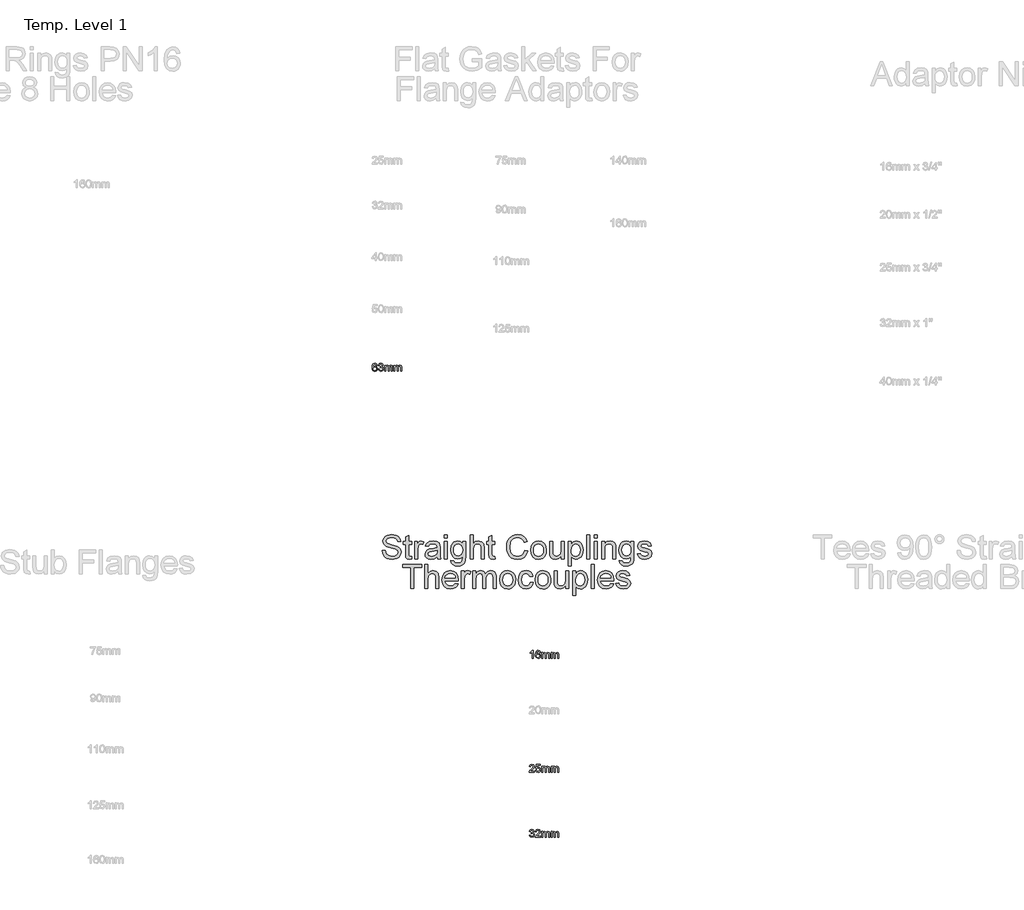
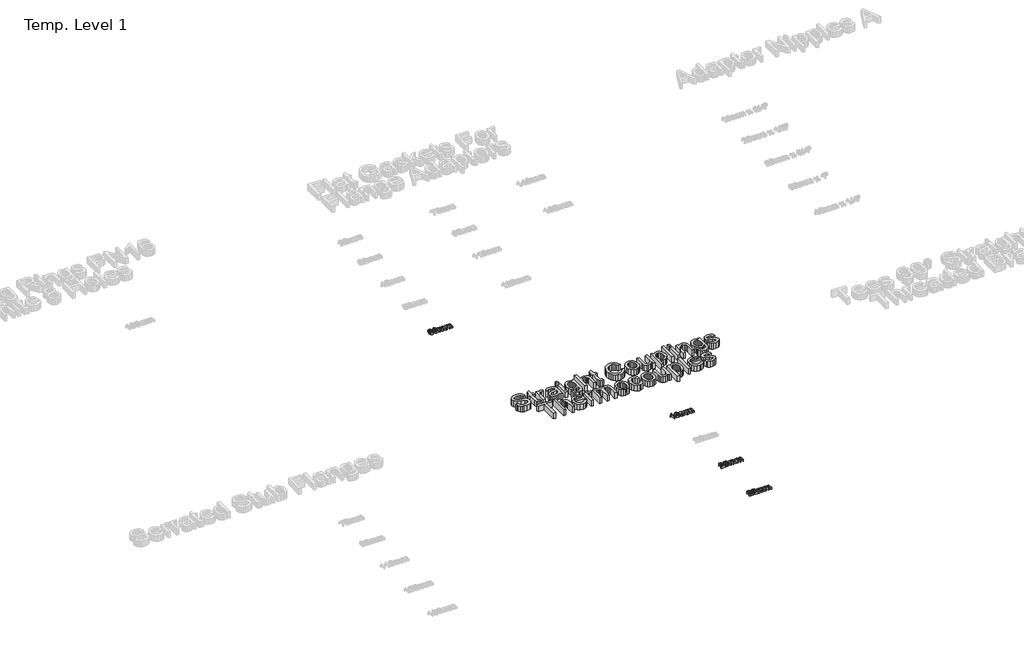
# One storey, part 3 of 62: 5 proxies.
"""IFC4 building model written with IfcOpenShell, lengths in millimetres."""

from ifc_helpers import new_model, si_unit, origin, origin_with_axes, place, context, project, spatial, polyline, outline, extrude, element, save

model = new_model("IFC4")

# Units and contexts
model_context = context("Model", 3, world=origin())
ifc_project = project(units=[si_unit("LENGTHUNIT", "METRE", prefix="MILLI")], contexts=[model_context])

# Site, building, storey
site = spatial("IfcSite", under=ifc_project)
building = spatial("IfcBuilding", under=site)
storey = spatial("IfcBuildingStorey", under=building, Name="Temp. Level 1", Elevation=0.0)

# Proxies
placement = place(None, origin())
element("IfcBuildingElementProxy", 1, Name="150mm Arial", ObjectType="150mm Arial", at=placement, inside=storey, context=model_context, shape_type="SweptSolid", body=[
    extrude(outline(polyline([(11591.8868673, -9928.2754401), (11610.3484058, -9928.2754401), (11616.297925, -9946.7550074), (11630.829175, -9958.4376997), (11652.9685981, -9962.8908247), (11672.2594635, -9959.5194305), (11684.7173962, -9950.2526036), (11688.8099442, -9937.8667862), (11685.7450404, -9926.3463536), (11673.1969635, -9917.9629401), (11646.3159538, -9910.9136612), (11617.3796558, -9901.8090939), (11601.6765308, -9888.0711132), (11596.5022519, -9869.7177478), (11598.102312, -9858.9049473), (11602.9024923, -9848.8223151), (11610.7765909, -9840.276642), (11621.5984058, -9834.0747189), (11648.9661942, -9829.0446709), (11678.172925, -9834.3090939), (11689.3688385, -9840.808493), (11697.6440788, -9849.7778439), (11702.8814587, -9860.6582526), (11704.9637904, -9872.8908247), (11686.5022519, -9872.8908247), (11683.1128288, -9861.8751997), (11676.0455212, -9853.9244786), (11665.0028529, -9849.1107766), (11649.6873481, -9847.5062093), (11634.0112663, -9849.0927478), (11623.2570596, -9853.8523632), (11617.0371077, -9860.8565699), (11614.9637904, -9869.1768824), (11616.4331413, -9876.2712334), (11620.8411942, -9881.9773632), (11650.985425, -9892.2898632), (11683.6536942, -9901.5566901), (11694.1780332, -9908.2544064), (11701.5202808, -9916.5206324), (11707.2714827, -9937.3980362), (11705.6173361, -9948.7787454), (11700.6548962, -9959.4833728), (11692.5869875, -9968.6961132), (11681.6164346, -9975.6011612), (11653.6897519, -9981.3523632), (11635.602312, -9979.8018824), (11620.7149923, -9975.1504401), (11608.8565188, -9967.3800074), (11599.8556173, -9956.4725555), (11594.0773721, -9943.1852959), (11591.8868673, -9928.2754401)])), origin_with_axes(), (0.0, 0.0, 1.0), 50.0),
    extrude(outline(polyline([(11771.8868673, -9963.6480362), (11774.1945596, -9979.5855362), (11760.3844635, -9981.3523632), (11744.9157135, -9978.2874593), (11737.1993673, -9970.2465939), (11734.9637904, -9949.2970747), (11734.9637904, -9889.0446709), (11721.1176365, -9889.0446709), (11721.1176365, -9870.5831324), (11734.9637904, -9870.5831324), (11734.9637904, -9844.2249593), (11753.4253288, -9833.3715939), (11753.4253288, -9870.5831324), (11771.8868673, -9870.5831324), (11771.8868673, -9889.0446709), (11753.4253288, -9889.0446709), (11753.4253288, -9948.7562093), (11754.3988865, -9958.2754401), (11757.5539346, -9961.6468343), (11763.8460019, -9962.8908247), (11771.8868673, -9963.6480362)])), origin_with_axes(), (0.0, 0.0, 1.0), 50.0),
    extrude(outline(polyline([(11790.3484058, -9979.0446709), (11790.3484058, -9870.5831324), (11806.5022519, -9870.5831324), (11806.5022519, -9886.6288055), (11817.9685981, -9871.8451516), (11829.5070596, -9868.2754401), (11848.0407135, -9873.9725555), (11841.8748481, -9890.5230362), (11828.8940788, -9886.7369786), (11818.4553769, -9890.3788055), (11811.8027327, -9900.4749593), (11808.8099442, -9922.0374593), (11808.8099442, -9979.0446709), (11790.3484058, -9979.0446709)])), origin_with_axes(), (0.0, 0.0, 1.0), 50.0),
    extrude(outline(polyline([(11928.8099442, -9965.198517), (11910.9073, -9977.7105362), (11891.1296558, -9981.3523632), (11875.7014707, -9979.1618584), (11864.3207615, -9972.5903439), (11857.3030332, -9962.6113776), (11854.9637904, -9950.198517), (11858.4974442, -9935.5951516), (11867.7823, -9924.9941901), (11880.7089827, -9918.9364978), (11896.6825404, -9916.1600555), (11928.7017712, -9909.8139016), (11928.8099442, -9905.7033247), (11927.5389106, -9897.464142), (11923.7258096, -9892.073517), (11915.1981654, -9888.0711132), (11903.3171558, -9886.7369786), (11884.6392712, -9890.2886612), (11875.7330212, -9902.8908247), (11857.2714827, -9900.5831324), (11865.2582615, -9882.5542862), (11881.3399923, -9871.9893824), (11905.6969635, -9868.2754401), (11928.0707615, -9871.5566901), (11940.7089827, -9879.7958728), (11946.3700404, -9892.3259209), (11947.2714827, -9908.479767), (11947.2714827, -9931.448517), (11948.2089827, -9963.5218343), (11951.8868673, -9979.0446709), (11933.4253288, -9979.0446709), (11928.8099442, -9965.198517)]), holes=[polyline([(11928.8099442, -9928.2754401), (11899.0262904, -9933.9364978), (11883.1428769, -9936.9292862), (11875.9493673, -9941.7970747), (11873.4253288, -9948.9004401), (11878.9241269, -9958.8884209), (11895.0599442, -9962.8908247), (11913.7378288, -9958.4737574), (11925.7810981, -9947.7826516), (11928.7017712, -9933.5038055), (11928.8099442, -9928.2754401)])]), origin_with_axes(), (0.0, 0.0, 1.0), 50.0),
    extrude(outline(polyline([(11972.6560981, -9979.0446709), (11972.6560981, -9870.5831324), (11991.1176365, -9870.5831324), (11991.1176365, -9979.0446709), (11972.6560981, -9979.0446709)])), origin_with_axes(), (0.0, 0.0, 1.0), 50.0),
    extrude(outline(polyline([(11972.6560981, -9849.8139016), (11972.6560981, -9831.3523632), (11991.1176365, -9831.3523632), (11991.1176365, -9849.8139016), (11972.6560981, -9849.8139016)])), origin_with_axes(), (0.0, 0.0, 1.0), 50.0),
    extrude(outline(polyline([(12014.1945596, -9988.2754401), (12032.6560981, -9990.5831324), (12038.641675, -10000.3187093), (12056.5623481, -10004.4292862), (12075.4565788, -9999.7778439), (12084.4710019, -9986.7249593), (12085.7330212, -9965.198517), (12072.7342231, -9975.5831324), (12056.8868673, -9979.0446709), (12037.852913, -9975.0152237), (12023.6597038, -9962.9268824), (12014.8300764, -9945.2045266), (12011.8868673, -9924.2730362), (12017.1693192, -9895.6612574), (12023.6326606, -9884.0461733), (12032.4577808, -9875.4148632), (12043.3426966, -9870.0602959), (12055.985425, -9868.2754401), (12072.454776, -9872.3139016), (12085.7330212, -9884.4292862), (12085.7330212, -9870.5831324), (12104.1945596, -9870.5831324), (12104.1945596, -9964.2249593), (12102.9325404, -9985.8460531), (12099.1464827, -10000.0843343), (12092.6245476, -10009.5269425), (12083.1548962, -10016.761017), (12070.9448601, -10021.3583728), (12056.2017712, -10022.8908247), (12039.024788, -10020.7318704), (12025.4986462, -10014.2550074), (12016.8222639, -10003.4422069), (12014.1945596, -9988.2754401)]), holes=[polyline([(12030.3484058, -9923.011017), (12032.3180572, -9939.9446108), (12038.2270115, -9951.5867382), (12047.1107255, -9958.3340338), (12058.0046558, -9960.5831324), (12068.8174563, -9958.3475555), (12077.7462423, -9951.6408247), (12083.7363264, -9940.1474353), (12085.7330212, -9923.5518824), (12083.6777327, -9907.5467742), (12077.5118673, -9896.0218343), (12068.4523721, -9889.0581925), (12057.7161942, -9886.7369786), (12047.1738264, -9889.0221348), (12038.3351846, -9895.8776036), (12032.3451005, -9907.2312694), (12030.3484058, -9923.011017)])]), origin_with_axes(), (0.0, 0.0, 1.0), 50.0),
    extrude(outline(polyline([(12131.8868673, -9979.0446709), (12131.8868673, -9831.3523632), (12150.3484058, -9831.3523632), (12150.3484058, -9885.6552478), (12164.7444394, -9872.620392), (12182.4758096, -9868.2754401), (12203.2089827, -9873.0170266), (12215.7931173, -9886.1239978), (12219.579175, -9910.3908247), (12219.579175, -9979.0446709), (12201.1176365, -9979.0446709), (12201.1176365, -9912.3018824), (12199.6482856, -9900.745392), (12195.2402327, -9892.8307286), (12188.1368673, -9888.2604161), (12178.5815788, -9886.7369786), (12163.4553769, -9890.8475555), (12153.3592231, -9901.9893824), (12150.3484058, -9921.4244786), (12150.3484058, -9979.0446709), (12131.8868673, -9979.0446709)])), origin_with_axes(), (0.0, 0.0, 1.0), 50.0),
    extrude(outline(polyline([(12284.1945596, -9963.6480362), (12286.5022519, -9979.5855362), (12272.6921558, -9981.3523632), (12257.2234058, -9978.2874593), (12249.5070596, -9970.2465939), (12247.2714827, -9949.2970747), (12247.2714827, -9889.0446709), (12233.4253288, -9889.0446709), (12233.4253288, -9870.5831324), (12247.2714827, -9870.5831324), (12247.2714827, -9844.2249593), (12265.7330212, -9833.3715939), (12265.7330212, -9870.5831324), (12284.1945596, -9870.5831324), (12284.1945596, -9889.0446709), (12265.7330212, -9889.0446709), (12265.7330212, -9948.7562093), (12266.7065788, -9958.2754401), (12269.8616269, -9961.6468343), (12276.1536942, -9962.8908247), (12284.1945596, -9963.6480362)])), origin_with_axes(), (0.0, 0.0, 1.0), 50.0),
    extrude(outline(polyline([(12466.5022519, -9926.5446709), (12484.9637904, -9931.3042862), (12476.4451606, -9952.8172069), (12463.0767712, -9968.5338536), (12445.516675, -9978.1477358), (12424.422925, -9981.3523632), (12403.009163, -9978.9274834), (12386.0034538, -9971.6528439), (12372.9685981, -9959.7808487), (12363.4673962, -9943.5639016), (12357.6666149, -9924.4983968), (12355.7330212, -9904.0807286), (12357.9190188, -9882.5452718), (12364.4770115, -9863.948517), (12375.0644514, -9848.8809088), (12389.3387904, -9837.932892), (12406.2678769, -9831.2667262), (12424.8195596, -9829.0446709), (12445.0614466, -9831.9202718), (12461.7967231, -9840.5470747), (12474.5025524, -9854.3932286), (12482.6560981, -9872.9268824), (12464.1945596, -9877.3259209), (12457.7943192, -9863.86288), (12449.0503288, -9854.6276036), (12437.8544154, -9849.2865579), (12424.0984058, -9847.5062093), (12408.2420356, -9849.480368), (12395.2161942, -9855.4028439), (12385.3318793, -9864.651642), (12378.9000885, -9876.604767), (12374.1945596, -9904.0446709), (12379.7654731, -9935.8475555), (12386.8868673, -9947.7240579), (12397.1092231, -9956.1660651), (12409.3643313, -9961.2096348), (12422.5839827, -9962.8908247), (12437.9941389, -9960.6011612), (12450.8351846, -9953.7321709), (12460.5301966, -9942.3559689), (12466.5022519, -9926.5446709)])), origin_with_axes(), (0.0, 0.0, 1.0), 50.0),
    extrude(outline(polyline([(12503.4253288, -9924.8139016), (12507.4187183, -9898.6630603), (12519.3988865, -9880.2826516), (12534.2005692, -9871.277243), (12551.922925, -9868.2754401), (12571.3174563, -9871.9307887), (12586.8087423, -9882.8968343), (12596.9634899, -9900.3081925), (12600.3484058, -9923.2994786), (12598.8520115, -9941.9503199), (12594.3628288, -9956.1480362), (12587.0115668, -9966.7805483), (12576.9289346, -9974.7357766), (12564.9532736, -9979.6982165), (12551.922925, -9981.3523632), (12532.2940188, -9977.7105362), (12516.8207615, -9966.7850555), (12506.774187, -9949.0086132), (12503.4253288, -9924.8139016)]), holes=[polyline([(12521.8868673, -9924.7778439), (12524.0232856, -9941.4860771), (12530.4325404, -9953.3896228), (12540.0779731, -9960.5155242), (12551.922925, -9962.8908247), (12563.7137904, -9960.5020026), (12573.3411942, -9953.3355362), (12579.750449, -9941.2742382), (12581.8868673, -9924.2009209), (12579.7369274, -9907.9794665), (12573.2871077, -9896.2381805), (12563.6461822, -9889.112279), (12551.922925, -9886.7369786), (12540.0779731, -9889.1032646), (12530.4325404, -9896.2021228), (12524.0232856, -9908.0786252), (12521.8868673, -9924.7778439)])]), origin_with_axes(), (0.0, 0.0, 1.0), 50.0),
    extrude(outline(polyline([(12690.3484058, -9979.0446709), (12690.3484058, -9960.4028439), (12675.8892712, -9976.1149834), (12657.0310981, -9981.3523632), (12639.6693192, -9977.6744786), (12627.6981654, -9968.4437093), (12622.1993673, -9954.8499593), (12621.1176365, -9937.6864978), (12621.1176365, -9870.5831324), (12639.579175, -9870.5831324), (12639.579175, -9928.9965939), (12640.6969635, -9947.8187093), (12647.9986462, -9958.870392), (12661.7546558, -9962.8908247), (12677.1693192, -9958.7802478), (12687.3556173, -9947.5843343), (12690.3484058, -9927.0134209), (12690.3484058, -9870.5831324), (12708.8099442, -9870.5831324), (12708.8099442, -9979.0446709), (12690.3484058, -9979.0446709)])), origin_with_axes(), (0.0, 0.0, 1.0), 50.0),
    extrude(outline(polyline([(12734.1945596, -10020.5831324), (12734.1945596, -9870.5831324), (12752.6560981, -9870.5831324), (12752.6560981, -9888.6840939), (12765.4205212, -9873.3776036), (12782.6560981, -9868.2754401), (12795.141074, -9870.0602959), (12806.0575404, -9875.4148632), (12814.9457615, -9884.0146228), (12821.3460019, -9895.5350555), (12826.5022519, -9923.9845747), (12825.0464226, -9939.7733367), (12820.6789346, -9953.8944305), (12813.5395115, -9965.6312093), (12803.7678769, -9974.2670266), (12792.3871678, -9979.581029), (12780.4205212, -9981.3523632), (12764.3568192, -9976.6107766), (12752.6560981, -9964.6215939), (12752.6560981, -10020.5831324), (12734.1945596, -10020.5831324)]), holes=[polyline([(12752.6560981, -9925.6792862), (12754.6527928, -9942.229767), (12760.6428769, -9953.8042862), (12769.4815188, -9960.6191901), (12780.0238865, -9962.8908247), (12790.7375284, -9960.5380603), (12799.8015308, -9953.479767), (12805.9809178, -9941.4815699), (12808.0407135, -9924.3090939), (12806.0304971, -9907.8487574), (12799.9998481, -9896.1119786), (12791.1747279, -9889.0807286), (12780.7810981, -9886.7369786), (12770.3469034, -9889.2294665), (12761.1837423, -9896.7069305), (12754.7880091, -9908.9349954), (12752.6560981, -9925.6792862)])]), origin_with_axes(), (0.0, 0.0, 1.0), 50.0),
    extrude(outline(polyline([(12847.2714827, -9979.0446709), (12847.2714827, -9831.3523632), (12865.7330212, -9831.3523632), (12865.7330212, -9979.0446709), (12847.2714827, -9979.0446709)])), origin_with_axes(), (0.0, 0.0, 1.0), 50.0),
    extrude(outline(polyline([(12893.4253288, -9979.0446709), (12893.4253288, -9870.5831324), (12911.8868673, -9870.5831324), (12911.8868673, -9979.0446709), (12893.4253288, -9979.0446709)])), origin_with_axes(), (0.0, 0.0, 1.0), 50.0),
    extrude(outline(polyline([(12893.4253288, -9849.8139016), (12893.4253288, -9831.3523632), (12911.8868673, -9831.3523632), (12911.8868673, -9849.8139016), (12893.4253288, -9849.8139016)])), origin_with_axes(), (0.0, 0.0, 1.0), 50.0),
    extrude(outline(polyline([(12939.579175, -9979.0446709), (12939.579175, -9870.5831324), (12958.0407135, -9870.5831324), (12958.0407135, -9885.7273632), (12972.1573, -9872.6384209), (12991.4301365, -9868.2754401), (13008.8640308, -9871.7910651), (13020.7630692, -9881.0218343), (13026.297925, -9894.5975555), (13027.2714827, -9912.4461132), (13027.2714827, -9979.0446709), (13008.8099442, -9979.0446709), (13008.8099442, -9914.9340939), (13006.6825404, -9898.5999593), (12999.1645115, -9889.964142), (12986.4902327, -9886.7369786), (12975.6774322, -9888.5488776), (12966.4601846, -9893.9845747), (12960.1455813, -9904.4863776), (12958.0407135, -9921.4965939), (12958.0407135, -9979.0446709), (12939.579175, -9979.0446709)])), origin_with_axes(), (0.0, 0.0, 1.0), 50.0),
    extrude(outline(polyline([(13048.0407135, -9988.2754401), (13066.5022519, -9990.5831324), (13072.4878288, -10000.3187093), (13090.4085019, -10004.4292862), (13109.3027327, -9999.7778439), (13118.3171558, -9986.7249593), (13119.579175, -9965.198517), (13106.5803769, -9975.5831324), (13090.7330212, -9979.0446709), (13071.6990668, -9975.0152237), (13057.5058577, -9962.9268824), (13048.6762303, -9945.2045266), (13045.7330212, -9924.2730362), (13051.0154731, -9895.6612574), (13057.4788144, -9884.0461733), (13066.3039346, -9875.4148632), (13077.1888505, -9870.0602959), (13089.8315788, -9868.2754401), (13106.3009298, -9872.3139016), (13119.579175, -9884.4292862), (13119.579175, -9870.5831324), (13138.0407135, -9870.5831324), (13138.0407135, -9964.2249593), (13136.7786942, -9985.8460531), (13132.9926365, -10000.0843343), (13126.4707014, -10009.5269425), (13117.00105, -10016.761017), (13104.7910139, -10021.3583728), (13090.047925, -10022.8908247), (13072.8709418, -10020.7318704), (13059.3448, -10014.2550074), (13050.6684178, -10003.4422069), (13048.0407135, -9988.2754401)]), holes=[polyline([(13064.1945596, -9923.011017), (13066.1642111, -9939.9446108), (13072.0731654, -9951.5867382), (13080.9568793, -9958.3340338), (13091.8508096, -9960.5831324), (13102.6636101, -9958.3475555), (13111.5923962, -9951.6408247), (13117.5824803, -9940.1474353), (13119.579175, -9923.5518824), (13117.5238865, -9907.5467742), (13111.3580212, -9896.0218343), (13102.298526, -9889.0581925), (13091.5623481, -9886.7369786), (13081.0199803, -9889.0221348), (13072.1813385, -9895.8776036), (13066.1912543, -9907.2312694), (13064.1945596, -9923.011017)])]), origin_with_axes(), (0.0, 0.0, 1.0), 50.0),
    extrude(outline(polyline([(13158.8099442, -9946.7369786), (13177.2714827, -9944.4292862), (13180.1831413, -9952.3259209), (13185.8171558, -9958.1312093), (13205.3964827, -9962.8908247), (13224.2185981, -9958.5278439), (13230.3484058, -9948.2874593), (13224.1825404, -9939.9941901), (13205.1801365, -9934.729767), (13177.3796558, -9925.6973151), (13165.2462423, -9915.1504401), (13161.1176365, -9900.2586132), (13164.4349442, -9886.5026036), (13173.485425, -9875.9917862), (13185.2222038, -9870.5290459), (13201.1056173, -9868.2754401), (13223.5695596, -9871.8992382), (13237.8484058, -9881.7069305), (13244.1945596, -9898.2754401), (13225.7330212, -9900.5831324), (13218.7919154, -9890.3968343), (13202.547925, -9886.7369786), (13184.8796558, -9890.2345747), (13179.579175, -9898.3836132), (13181.7786942, -9903.7562093), (13188.6657135, -9907.8307286), (13204.5671558, -9911.761017), (13231.6645115, -9920.4509209), (13244.2486462, -9930.2946709), (13248.8099442, -9946.3403439), (13243.4553769, -9964.0086132), (13228.0046558, -9976.8271228), (13205.1440788, -9981.3523632), (13186.5292952, -9979.1708728), (13172.9445596, -9972.6264016), (13163.87605, -9961.7910651), (13158.8099442, -9946.7369786)])), origin_with_axes(), (0.0, 0.0, 1.0), 50.0),
    extrude(outline(polyline([(11767.2714827, -10161.3523632), (11767.2714827, -10032.1215939), (11718.8099442, -10032.1215939), (11718.8099442, -10013.6600555), (11834.1945596, -10013.6600555), (11834.1945596, -10032.1215939), (11785.7330212, -10032.1215939), (11785.7330212, -10161.3523632), (11767.2714827, -10161.3523632)])), origin_with_axes(), (0.0, 0.0, 1.0), 50.0),
    extrude(outline(polyline([(11852.6560981, -10161.3523632), (11852.6560981, -10013.6600555), (11871.1176365, -10013.6600555), (11871.1176365, -10067.9629401), (11885.5136702, -10054.9280843), (11903.2450404, -10050.5831324), (11923.9782135, -10055.3247189), (11936.5623481, -10068.4316901), (11940.3484058, -10092.698517), (11940.3484058, -10161.3523632), (11921.8868673, -10161.3523632), (11921.8868673, -10094.6095747), (11920.4175163, -10083.0530843), (11916.0094635, -10075.1384209), (11908.9060981, -10070.5681084), (11899.3508096, -10069.0446709), (11884.2246077, -10073.1552478), (11874.1284538, -10084.2970747), (11871.1176365, -10103.7321709), (11871.1176365, -10161.3523632), (11852.6560981, -10161.3523632)])), origin_with_axes(), (0.0, 0.0, 1.0), 50.0),
    extrude(outline(polyline([(12041.6705212, -10129.0446709), (12059.7714827, -10131.3523632), (12053.2495476, -10144.9911853), (12042.8423962, -10155.1864978), (12028.7844034, -10161.5416661), (12011.3099442, -10163.6600555), (11989.6482856, -10160.0047069), (11972.9806173, -10149.0386612), (11962.3526125, -10131.4740579), (11958.8099442, -10108.0230362), (11962.3886702, -10083.7832526), (11973.1248481, -10065.6552478), (11989.5671558, -10054.3511612), (12010.2642712, -10050.5831324), (12030.3168553, -10054.3421468), (12046.3399923, -10065.6191901), (12056.8463024, -10083.7111372), (12060.3484058, -10107.9148632), (12060.2402327, -10112.8908247), (11977.2714827, -10112.8908247), (11980.4670957, -10126.7099353), (11987.8904731, -10136.8691901), (11998.6041149, -10143.1161853), (12011.6705212, -10145.198517), (12029.7714827, -10141.3403439), (12041.6705212, -10129.0446709)]), holes=[polyline([(11977.2714827, -10094.4292862), (12041.8868673, -10094.4292862), (12039.3898721, -10084.6756805), (12034.4950404, -10077.698517), (12023.7318192, -10071.2081324), (12010.1921558, -10069.0446709), (11997.7477447, -10070.7709329), (11987.4577808, -10075.9497189), (11980.3048361, -10084.0221348), (11977.2714827, -10094.4292862)])]), origin_with_axes(), (0.0, 0.0, 1.0), 50.0),
    extrude(outline(polyline([(12078.8099442, -10161.3523632), (12078.8099442, -10052.8908247), (12094.9637904, -10052.8908247), (12094.9637904, -10068.9364978), (12106.4301365, -10054.1528439), (12117.9685981, -10050.5831324), (12136.5022519, -10056.2802478), (12130.3363865, -10072.8307286), (12117.3556173, -10069.0446709), (12106.9169154, -10072.6864978), (12100.2642712, -10082.7826516), (12097.2714827, -10104.3451516), (12097.2714827, -10161.3523632), (12078.8099442, -10161.3523632)])), origin_with_axes(), (0.0, 0.0, 1.0), 50.0),
    extrude(outline(polyline([(12148.0407135, -10161.3523632), (12148.0407135, -10052.8908247), (12166.5022519, -10052.8908247), (12166.5022519, -10070.7393824), (12179.1945596, -10056.1179882), (12197.2594635, -10050.5831324), (12207.5268913, -10051.9938896), (12215.7570596, -10056.2261612), (12225.9253288, -10072.0374593), (12240.3303769, -10055.9467141), (12258.5214827, -10050.5831324), (12272.399187, -10052.8142021), (12282.6621077, -10059.5074112), (12289.0037543, -10070.8430483), (12291.1176365, -10087.0014016), (12291.1176365, -10161.3523632), (12272.6560981, -10161.3523632), (12272.6560981, -10094.9340939), (12270.9433577, -10079.5194305), (12264.7414346, -10071.9292862), (12254.1945596, -10069.0446709), (12244.1930572, -10070.8926276), (12236.0395115, -10076.4364978), (12230.6173361, -10086.0548872), (12228.8099442, -10100.1264016), (12228.8099442, -10161.3523632), (12210.3484058, -10161.3523632), (12210.3484058, -10092.8788055), (12206.0755692, -10074.9941901), (12200.4370476, -10070.5320507), (12192.0671558, -10069.0446709), (12178.4012904, -10073.011017), (12169.3147519, -10084.6215939), (12166.5022519, -10106.6528439), (12166.5022519, -10161.3523632), (12148.0407135, -10161.3523632)])), origin_with_axes(), (0.0, 0.0, 1.0), 50.0),
    extrude(outline(polyline([(12314.1945596, -10107.1215939), (12318.187949, -10080.9707526), (12330.1681173, -10062.5903439), (12344.9698, -10053.5849353), (12362.6921558, -10050.5831324), (12382.086687, -10054.238481), (12397.5779731, -10065.2045266), (12407.7327207, -10082.6158848), (12411.1176365, -10105.6071709), (12409.6212423, -10124.2580122), (12405.1320596, -10138.4557286), (12397.7807976, -10149.0882406), (12387.6981654, -10157.0434689), (12375.7225043, -10162.0059088), (12362.6921558, -10163.6600555), (12343.0632495, -10160.0182286), (12327.5899923, -10149.0927478), (12317.5434178, -10131.3163055), (12314.1945596, -10107.1215939)]), holes=[polyline([(12332.6560981, -10107.0855362), (12334.7925163, -10123.7937694), (12341.2017712, -10135.6973151), (12350.8472038, -10142.8232165), (12362.6921558, -10145.198517), (12374.4830212, -10142.8096949), (12384.110425, -10135.6432286), (12390.5196798, -10123.5819305), (12392.6560981, -10106.5086132), (12390.5061582, -10090.2871588), (12384.0563385, -10078.5458728), (12374.415413, -10071.4199713), (12362.6921558, -10069.0446709), (12350.8472038, -10071.4109569), (12341.2017712, -10078.5098151), (12334.7925163, -10090.3863175), (12332.6560981, -10107.0855362)])]), origin_with_axes(), (0.0, 0.0, 1.0), 50.0),
    extrude(outline(polyline([(12501.1176365, -10122.1215939), (12519.579175, -10124.4292862), (12514.4319394, -10140.8490579), (12504.7594635, -10153.2574112), (12491.4722038, -10161.0593944), (12475.4806173, -10163.6600555), (12455.8426966, -10160.0317502), (12440.4866269, -10149.1468343), (12430.5752688, -10131.4830723), (12427.2714827, -10107.5182286), (12432.9145115, -10076.8511612), (12440.0359058, -10065.3532646), (12450.1140308, -10057.1456324), (12462.1708216, -10052.2237574), (12475.2282135, -10050.5831324), (12490.8276726, -10052.8367382), (12503.2991269, -10059.5975555), (12512.2459418, -10070.5050074), (12517.2714827, -10085.198517), (12498.8099442, -10087.5062093), (12490.2462423, -10073.6780843), (12475.3724442, -10069.0446709), (12463.4418553, -10071.3253199), (12453.9722038, -10078.167267), (12447.7928168, -10089.9401036), (12445.7330212, -10107.0134209), (12447.7477447, -10124.316606), (12453.7919154, -10136.1300074), (12463.0902928, -10142.9313896), (12474.8676365, -10145.198517), (12484.4274322, -10143.7832526), (12492.2654731, -10139.5374593), (12497.9670957, -10132.3529641), (12501.1176365, -10122.1215939)])), origin_with_axes(), (0.0, 0.0, 1.0), 50.0),
    extrude(outline(polyline([(12531.1176365, -10107.1215939), (12535.111026, -10080.9707526), (12547.0911942, -10062.5903439), (12561.8928769, -10053.5849353), (12579.6152327, -10050.5831324), (12599.0097639, -10054.238481), (12614.50105, -10065.2045266), (12624.6557976, -10082.6158848), (12628.0407135, -10105.6071709), (12626.5443192, -10124.2580122), (12622.0551365, -10138.4557286), (12614.7038745, -10149.0882406), (12604.6212423, -10157.0434689), (12592.6455813, -10162.0059088), (12579.6152327, -10163.6600555), (12559.9863264, -10160.0182286), (12544.5130692, -10149.0927478), (12534.4664947, -10131.3163055), (12531.1176365, -10107.1215939)]), holes=[polyline([(12549.579175, -10107.0855362), (12551.7155933, -10123.7937694), (12558.1248481, -10135.6973151), (12567.7702808, -10142.8232165), (12579.6152327, -10145.198517), (12591.4060981, -10142.8096949), (12601.0335019, -10135.6432286), (12607.4427567, -10123.5819305), (12609.579175, -10106.5086132), (12607.4292351, -10090.2871588), (12600.9794154, -10078.5458728), (12591.3384899, -10071.4199713), (12579.6152327, -10069.0446709), (12567.7702808, -10071.4109569), (12558.1248481, -10078.5098151), (12551.7155933, -10090.3863175), (12549.579175, -10107.0855362)])]), origin_with_axes(), (0.0, 0.0, 1.0), 50.0),
    extrude(outline(polyline([(12718.0407135, -10161.3523632), (12718.0407135, -10142.7105362), (12703.5815788, -10158.4226757), (12684.7234058, -10163.6600555), (12667.3616269, -10159.9821709), (12655.3904731, -10150.7514016), (12649.891675, -10137.1576516), (12648.8099442, -10119.9941901), (12648.8099442, -10052.8908247), (12667.2714827, -10052.8908247), (12667.2714827, -10111.3042862), (12668.3892712, -10130.1264016), (12675.6909538, -10141.1780843), (12689.4469635, -10145.198517), (12704.8616269, -10141.0879401), (12715.047925, -10129.8920266), (12718.0407135, -10109.3211132), (12718.0407135, -10052.8908247), (12736.5022519, -10052.8908247), (12736.5022519, -10161.3523632), (12718.0407135, -10161.3523632)])), origin_with_axes(), (0.0, 0.0, 1.0), 50.0),
    extrude(outline(polyline([(12761.8868673, -10202.8908247), (12761.8868673, -10052.8908247), (12780.3484058, -10052.8908247), (12780.3484058, -10070.9917862), (12793.1128288, -10055.6852959), (12810.3484058, -10050.5831324), (12822.8333817, -10052.3679882), (12833.7498481, -10057.7225555), (12842.6380692, -10066.3223151), (12849.0383096, -10077.8427478), (12854.1945596, -10106.292267), (12852.7387303, -10122.081029), (12848.3712423, -10136.2021228), (12841.2318192, -10147.9389016), (12831.4601846, -10156.5747189), (12820.0794755, -10161.8887213), (12808.1128288, -10163.6600555), (12792.0491269, -10158.9184689), (12780.3484058, -10146.9292862), (12780.3484058, -10202.8908247), (12761.8868673, -10202.8908247)]), holes=[polyline([(12780.3484058, -10107.9869786), (12782.3451005, -10124.5374593), (12788.3351846, -10136.1119786), (12797.1738264, -10142.9268824), (12807.7161942, -10145.198517), (12818.4298361, -10142.8457526), (12827.4938385, -10135.7874593), (12833.6732255, -10123.7892622), (12835.7330212, -10106.6167862), (12833.7228048, -10090.1564497), (12827.6921558, -10078.4196709), (12818.8670356, -10071.3884209), (12808.4734058, -10069.0446709), (12798.0392111, -10071.5371588), (12788.87605, -10079.0146228), (12782.4803168, -10091.2426877), (12780.3484058, -10107.9869786)])]), origin_with_axes(), (0.0, 0.0, 1.0), 50.0),
    extrude(outline(polyline([(12874.9637904, -10161.3523632), (12874.9637904, -10013.6600555), (12893.4253288, -10013.6600555), (12893.4253288, -10161.3523632), (12874.9637904, -10161.3523632)])), origin_with_axes(), (0.0, 0.0, 1.0), 50.0),
    extrude(outline(polyline([(12997.0551365, -10129.0446709), (13015.1560981, -10131.3523632), (13008.634163, -10144.9911853), (12998.2270115, -10155.1864978), (12984.1690188, -10161.5416661), (12966.6945596, -10163.6600555), (12945.032901, -10160.0047069), (12928.3652327, -10149.0386612), (12917.7372279, -10131.4740579), (12914.1945596, -10108.0230362), (12917.7732856, -10083.7832526), (12928.5094635, -10065.6552478), (12944.9517712, -10054.3511612), (12965.6488865, -10050.5831324), (12985.7014707, -10054.3421468), (13001.7246077, -10065.6191901), (13012.2309178, -10083.7111372), (13015.7330212, -10107.9148632), (13015.6248481, -10112.8908247), (12932.6560981, -10112.8908247), (12935.8517111, -10126.7099353), (12943.2750885, -10136.8691901), (12953.9887303, -10143.1161853), (12967.0551365, -10145.198517), (12985.1560981, -10141.3403439), (12997.0551365, -10129.0446709)]), holes=[polyline([(12932.6560981, -10094.4292862), (12997.2714827, -10094.4292862), (12994.7744875, -10084.6756805), (12989.8796558, -10077.698517), (12979.1164346, -10071.2081324), (12965.5767712, -10069.0446709), (12953.1323601, -10070.7709329), (12942.8423962, -10075.9497189), (12935.6894514, -10084.0221348), (12932.6560981, -10094.4292862)])]), origin_with_axes(), (0.0, 0.0, 1.0), 50.0),
    extrude(outline(polyline([(13027.2714827, -10129.0446709), (13045.7330212, -10126.7369786), (13048.6446798, -10134.6336132), (13054.2786942, -10140.4389016), (13073.8580212, -10145.198517), (13092.6801365, -10140.8355362), (13098.8099442, -10130.5951516), (13092.6440788, -10122.3018824), (13073.641675, -10117.0374593), (13045.8411942, -10108.0050074), (13033.7077808, -10097.4581324), (13029.579175, -10082.5663055), (13032.8964827, -10068.8102959), (13041.9469635, -10058.2994786), (13053.6837423, -10052.8367382), (13069.5671558, -10050.5831324), (13092.0310981, -10054.2069305), (13106.3099442, -10064.0146228), (13112.6560981, -10080.5831324), (13094.1945596, -10082.8908247), (13087.2534538, -10072.7045266), (13071.0094635, -10069.0446709), (13053.3411942, -10072.542267), (13048.0407135, -10080.6913055), (13050.2402327, -10086.0639016), (13057.1272519, -10090.1384209), (13073.0286942, -10094.0687093), (13100.12605, -10102.7586132), (13112.7101846, -10112.6023632), (13117.2714827, -10128.6480362), (13111.9169154, -10146.3163055), (13096.4661942, -10159.1348151), (13073.6056173, -10163.6600555), (13054.9908337, -10161.4785651), (13041.4060981, -10154.9340939), (13032.3375885, -10144.0987574), (13027.2714827, -10129.0446709)])), origin_with_axes(), (0.0, 0.0, 1.0), 50.0),
])
element("IfcBuildingElementProxy", 2, Name="50mm Arial", ObjectType="50mm Arial", at=placement, inside=storey, context=model_context, shape_type="SweptSolid", body=[
    extrude(outline(polyline([(11561.8630554, -8789.0446709), (11555.7092093, -8789.8139016), (11553.3774785, -8784.6816901), (11547.2116131, -8782.1215939), (11541.6587285, -8783.6119786), (11537.4580074, -8789.2069305), (11535.7092093, -8800.1744786), (11541.135892, -8795.2646228), (11547.8606516, -8793.6600555), (11558.3173824, -8798.0470747), (11562.6322862, -8809.3812093), (11560.6010362, -8817.8727959), (11555.0120939, -8823.8824112), (11546.9471901, -8825.9677478), (11534.4051227, -8820.4389016), (11530.767803, -8813.1191901), (11529.5553631, -8802.2177478), (11530.901517, -8789.9611372), (11534.9399785, -8781.5807286), (11540.4538006, -8777.370993), (11547.5962285, -8775.9677478), (11557.3197862, -8779.4413055), (11561.8630554, -8789.0446709)]), holes=[polyline([(11535.7092093, -8809.2850555), (11537.1334881, -8814.6155843), (11540.9195458, -8818.4857766), (11546.4664208, -8819.8139016), (11553.7200266, -8817.0614978), (11556.4784401, -8809.5855362), (11553.7560843, -8802.4280843), (11546.214017, -8799.8139016), (11538.7681035, -8802.4280843), (11535.7092093, -8809.2850555)])]), origin_with_axes(), (0.0, 0.0, 1.0), 15.0),
    extrude(outline(polyline([(11568.0169016, -8812.1215939), (11574.1707477, -8811.3523632), (11577.5661804, -8817.8307286), (11583.9183439, -8819.8139016), (11591.3943054, -8817.0855362), (11594.1707477, -8810.3307286), (11591.4183439, -8803.9665459), (11584.4231516, -8801.448517), (11580.1082477, -8802.1215939), (11580.7933439, -8795.9677478), (11588.7620939, -8794.2730362), (11591.8630554, -8788.8403439), (11589.6154593, -8784.026642), (11583.8221901, -8782.1215939), (11577.9568054, -8784.0446709), (11574.9399785, -8789.8139016), (11568.7861324, -8789.0446709), (11573.8221901, -8779.3932286), (11583.6058439, -8775.9677478), (11591.0277189, -8777.6564497), (11596.2200266, -8782.2718343), (11598.0169016, -8788.479767), (11596.3101708, -8794.1528439), (11591.2620939, -8798.2273632), (11597.9688247, -8802.4340939), (11600.3245939, -8810.4389016), (11595.6130554, -8821.448517), (11583.7019977, -8825.9677478), (11572.9087285, -8822.1095747), (11568.0169016, -8812.1215939)])), origin_with_axes(), (0.0, 0.0, 1.0), 15.0),
    extrude(outline(polyline([(11607.2476708, -8825.198517), (11607.2476708, -8789.0446709), (11613.401517, -8789.0446709), (11613.401517, -8794.9941901), (11617.6322862, -8790.120392), (11623.6539208, -8788.2754401), (11629.8197862, -8790.1564497), (11633.2092093, -8795.4268824), (11638.010892, -8790.0633007), (11644.0745939, -8788.2754401), (11652.1214689, -8791.2501997), (11654.9399785, -8800.4148632), (11654.9399785, -8825.198517), (11648.7861324, -8825.198517), (11648.7861324, -8803.0590939), (11648.2152189, -8797.9208728), (11646.1479112, -8795.3908247), (11642.6322862, -8794.4292862), (11636.5806035, -8796.8932286), (11634.1707477, -8804.7898632), (11634.1707477, -8825.198517), (11628.0169016, -8825.198517), (11628.0169016, -8802.3739978), (11626.5926227, -8796.4124593), (11621.9231516, -8794.4292862), (11617.3678631, -8795.7514016), (11614.339017, -8799.6215939), (11613.401517, -8806.9653439), (11613.401517, -8825.198517), (11607.2476708, -8825.198517)])), origin_with_axes(), (0.0, 0.0, 1.0), 15.0),
    extrude(outline(polyline([(11664.1707477, -8825.198517), (11664.1707477, -8789.0446709), (11670.3245939, -8789.0446709), (11670.3245939, -8794.9941901), (11674.5553631, -8790.120392), (11680.5769977, -8788.2754401), (11686.7428631, -8790.1564497), (11690.1322862, -8795.4268824), (11694.9339689, -8790.0633007), (11700.9976708, -8788.2754401), (11709.0445458, -8791.2501997), (11711.8630554, -8800.4148632), (11711.8630554, -8825.198517), (11705.7092093, -8825.198517), (11705.7092093, -8803.0590939), (11705.1382958, -8797.9208728), (11703.0709881, -8795.3908247), (11699.5553631, -8794.4292862), (11693.5036804, -8796.8932286), (11691.0938247, -8804.7898632), (11691.0938247, -8825.198517), (11684.9399785, -8825.198517), (11684.9399785, -8802.3739978), (11683.5156997, -8796.4124593), (11678.8462285, -8794.4292862), (11674.2909401, -8795.7514016), (11671.2620939, -8799.6215939), (11670.3245939, -8806.9653439), (11670.3245939, -8825.198517), (11664.1707477, -8825.198517)])), origin_with_axes(), (0.0, 0.0, 1.0), 15.0),
])
element("IfcBuildingElementProxy", 3, Name="50mm Arial", ObjectType="50mm Arial", at=placement, inside=storey, context=model_context, shape_type="SweptSolid", body=[
    extrude(outline(polyline([(12518.401517, -10590.198517), (12512.2476708, -10590.198517), (12512.2476708, -10551.8331324), (12506.4183439, -10555.9857766), (12499.9399785, -10559.0927478), (12499.9399785, -10553.2754401), (12508.9604112, -10547.5182286), (12514.4351708, -10540.9677478), (12518.401517, -10540.9677478), (12518.401517, -10590.198517)])), origin_with_axes(), (0.0, 0.0, 1.0), 15.0),
    extrude(outline(polyline([(12564.5553631, -10554.0446709), (12558.401517, -10554.8139016), (12556.0697862, -10549.6816901), (12549.9039208, -10547.1215939), (12544.3510362, -10548.6119786), (12540.1503151, -10554.2069305), (12538.401517, -10565.1744786), (12543.8281997, -10560.2646228), (12550.5529593, -10558.6600555), (12561.0096901, -10563.0470747), (12565.3245939, -10574.3812093), (12563.2933439, -10582.8727959), (12557.7044016, -10588.8824112), (12549.6394977, -10590.9677478), (12537.0974304, -10585.4389016), (12533.4601107, -10578.1191901), (12532.2476708, -10567.2177478), (12533.5938247, -10554.9611372), (12537.6322862, -10546.5807286), (12543.1461083, -10542.370993), (12550.2885362, -10540.9677478), (12560.0120939, -10544.4413055), (12564.5553631, -10554.0446709)]), holes=[polyline([(12538.401517, -10574.2850555), (12539.8257958, -10579.6155843), (12543.6118535, -10583.4857766), (12549.1587285, -10584.8139016), (12556.4123343, -10582.0614978), (12559.1707477, -10574.5855362), (12556.448392, -10567.4280843), (12548.9063247, -10564.8139016), (12541.4604112, -10567.4280843), (12538.401517, -10574.2850555)])]), origin_with_axes(), (0.0, 0.0, 1.0), 15.0),
    extrude(outline(polyline([(12572.2476708, -10590.198517), (12572.2476708, -10554.0446709), (12578.401517, -10554.0446709), (12578.401517, -10559.9941901), (12582.6322862, -10555.120392), (12588.6539208, -10553.2754401), (12594.8197862, -10555.1564497), (12598.2092093, -10560.4268824), (12603.010892, -10555.0633007), (12609.0745939, -10553.2754401), (12617.1214689, -10556.2501997), (12619.9399785, -10565.4148632), (12619.9399785, -10590.198517), (12613.7861324, -10590.198517), (12613.7861324, -10568.0590939), (12613.2152189, -10562.9208728), (12611.1479112, -10560.3908247), (12607.6322862, -10559.4292862), (12601.5806035, -10561.8932286), (12599.1707477, -10569.7898632), (12599.1707477, -10590.198517), (12593.0169016, -10590.198517), (12593.0169016, -10567.3739978), (12591.5926227, -10561.4124593), (12586.9231516, -10559.4292862), (12582.3678631, -10560.7514016), (12579.339017, -10564.6215939), (12578.401517, -10571.9653439), (12578.401517, -10590.198517), (12572.2476708, -10590.198517)])), origin_with_axes(), (0.0, 0.0, 1.0), 15.0),
    extrude(outline(polyline([(12629.1707477, -10590.198517), (12629.1707477, -10554.0446709), (12635.3245939, -10554.0446709), (12635.3245939, -10559.9941901), (12639.5553631, -10555.120392), (12645.5769977, -10553.2754401), (12651.7428631, -10555.1564497), (12655.1322862, -10560.4268824), (12659.9339689, -10555.0633007), (12665.9976708, -10553.2754401), (12674.0445458, -10556.2501997), (12676.8630554, -10565.4148632), (12676.8630554, -10590.198517), (12670.7092093, -10590.198517), (12670.7092093, -10568.0590939), (12670.1382958, -10562.9208728), (12668.0709881, -10560.3908247), (12664.5553631, -10559.4292862), (12658.5036804, -10561.8932286), (12656.0938247, -10569.7898632), (12656.0938247, -10590.198517), (12649.9399785, -10590.198517), (12649.9399785, -10567.3739978), (12648.5156997, -10561.4124593), (12643.8462285, -10559.4292862), (12639.2909401, -10560.7514016), (12636.2620939, -10564.6215939), (12635.3245939, -10571.9653439), (12635.3245939, -10590.198517), (12629.1707477, -10590.198517)])), origin_with_axes(), (0.0, 0.0, 1.0), 15.0),
])
element("IfcBuildingElementProxy", 4, Name="50mm Arial", ObjectType="50mm Arial", at=placement, inside=storey, context=model_context, shape_type="SweptSolid", body=[
    extrude(outline(polyline([(12526.8630554, -11284.0446709), (12526.8630554, -11290.198517), (12494.5553631, -11290.198517), (12495.2164208, -11285.9557286), (12498.9544016, -11279.4232766), (12506.6587285, -11272.2898632), (12517.2837285, -11262.0374593), (12519.9399785, -11255.0663055), (12517.4339689, -11249.4232766), (12510.8894977, -11247.1215939), (12504.0685843, -11249.3691901), (12501.4784401, -11255.5831324), (12495.3245939, -11254.8139016), (12500.042142, -11244.5134209), (12511.0217093, -11240.9677478), (12522.0373343, -11244.9100555), (12526.0938247, -11254.6937093), (12525.0000747, -11260.5290459), (12521.3642574, -11266.5626997), (12512.5481516, -11274.9941901), (12505.4688247, -11280.9136612), (12502.6923824, -11284.0446709), (12526.8630554, -11284.0446709)])), origin_with_axes(), (0.0, 0.0, 1.0), 15.0),
    extrude(outline(polyline([(12533.0169016, -11277.1215939), (12539.1707477, -11276.3523632), (12542.2717093, -11282.6925074), (12548.7019977, -11284.8139016), (12556.4183439, -11281.8631805), (12559.1707477, -11274.0326516), (12556.5926227, -11266.7249593), (12548.7981516, -11264.0446709), (12543.3955074, -11265.1143824), (12539.9399785, -11267.8908247), (12533.7861324, -11267.1215939), (12539.1707477, -11241.7369786), (12563.0169016, -11241.7369786), (12563.0169016, -11247.8908247), (12544.1467093, -11247.8908247), (12541.5144977, -11261.448517), (12550.5169016, -11257.8908247), (12561.0397381, -11262.3018824), (12565.3245939, -11273.6480362), (12561.4664208, -11285.0663055), (12555.9255554, -11289.4923872), (12548.6779593, -11290.9677478), (12537.8185843, -11287.1756805), (12533.0169016, -11277.1215939)])), origin_with_axes(), (0.0, 0.0, 1.0), 15.0),
    extrude(outline(polyline([(12572.2476708, -11290.198517), (12572.2476708, -11254.0446709), (12578.401517, -11254.0446709), (12578.401517, -11259.9941901), (12582.6322862, -11255.120392), (12588.6539208, -11253.2754401), (12594.8197862, -11255.1564497), (12598.2092093, -11260.4268824), (12603.010892, -11255.0633007), (12609.0745939, -11253.2754401), (12617.1214689, -11256.2501997), (12619.9399785, -11265.4148632), (12619.9399785, -11290.198517), (12613.7861324, -11290.198517), (12613.7861324, -11268.0590939), (12613.2152189, -11262.9208728), (12611.1479112, -11260.3908247), (12607.6322862, -11259.4292862), (12601.5806035, -11261.8932286), (12599.1707477, -11269.7898632), (12599.1707477, -11290.198517), (12593.0169016, -11290.198517), (12593.0169016, -11267.3739978), (12591.5926227, -11261.4124593), (12586.9231516, -11259.4292862), (12582.3678631, -11260.7514016), (12579.339017, -11264.6215939), (12578.401517, -11271.9653439), (12578.401517, -11290.198517), (12572.2476708, -11290.198517)])), origin_with_axes(), (0.0, 0.0, 1.0), 15.0),
    extrude(outline(polyline([(12629.1707477, -11290.198517), (12629.1707477, -11254.0446709), (12635.3245939, -11254.0446709), (12635.3245939, -11259.9941901), (12639.5553631, -11255.120392), (12645.5769977, -11253.2754401), (12651.7428631, -11255.1564497), (12655.1322862, -11260.4268824), (12659.9339689, -11255.0633007), (12665.9976708, -11253.2754401), (12674.0445458, -11256.2501997), (12676.8630554, -11265.4148632), (12676.8630554, -11290.198517), (12670.7092093, -11290.198517), (12670.7092093, -11268.0590939), (12670.1382958, -11262.9208728), (12668.0709881, -11260.3908247), (12664.5553631, -11259.4292862), (12658.5036804, -11261.8932286), (12656.0938247, -11269.7898632), (12656.0938247, -11290.198517), (12649.9399785, -11290.198517), (12649.9399785, -11267.3739978), (12648.5156997, -11261.4124593), (12643.8462285, -11259.4292862), (12639.2909401, -11260.7514016), (12636.2620939, -11264.6215939), (12635.3245939, -11271.9653439), (12635.3245939, -11290.198517), (12629.1707477, -11290.198517)])), origin_with_axes(), (0.0, 0.0, 1.0), 15.0),
])
element("IfcBuildingElementProxy", 5, Name="50mm Arial", ObjectType="50mm Arial", at=placement, inside=storey, context=model_context, shape_type="SweptSolid", body=[
    extrude(outline(polyline([(12495.3245939, -11677.1215939), (12501.4784401, -11676.3523632), (12504.8738727, -11682.8307286), (12511.2260362, -11684.8139016), (12518.7019977, -11682.0855362), (12521.4784401, -11675.3307286), (12518.7260362, -11668.9665459), (12511.7308439, -11666.448517), (12507.4159401, -11667.1215939), (12508.1010362, -11660.9677478), (12516.0697862, -11659.2730362), (12519.1707477, -11653.8403439), (12516.9231516, -11649.026642), (12511.1298824, -11647.1215939), (12505.2644977, -11649.0446709), (12502.2476708, -11654.8139016), (12496.0938247, -11654.0446709), (12501.1298824, -11644.3932286), (12510.9135362, -11640.9677478), (12518.3354112, -11642.6564497), (12523.5277189, -11647.2718343), (12525.3245939, -11653.479767), (12523.6178631, -11659.1528439), (12518.5697862, -11663.2273632), (12525.276517, -11667.4340939), (12527.6322862, -11675.4389016), (12522.9207477, -11686.448517), (12511.0096901, -11690.9677478), (12500.2164208, -11687.1095747), (12495.3245939, -11677.1215939)])), origin_with_axes(), (0.0, 0.0, 1.0), 15.0),
    extrude(outline(polyline([(12564.5553631, -11684.0446709), (12564.5553631, -11690.198517), (12532.2476708, -11690.198517), (12532.9087285, -11685.9557286), (12536.6467093, -11679.4232766), (12544.3510362, -11672.2898632), (12554.9760362, -11662.0374593), (12557.6322862, -11655.0663055), (12555.1262766, -11649.4232766), (12548.5818054, -11647.1215939), (12541.760892, -11649.3691901), (12539.1707477, -11655.5831324), (12533.0169016, -11654.8139016), (12537.7344497, -11644.5134209), (12548.714017, -11640.9677478), (12559.729642, -11644.9100555), (12563.7861324, -11654.6937093), (12562.6923824, -11660.5290459), (12559.0565651, -11666.5626997), (12550.2404593, -11674.9941901), (12543.1611324, -11680.9136612), (12540.3846901, -11684.0446709), (12564.5553631, -11684.0446709)])), origin_with_axes(), (0.0, 0.0, 1.0), 15.0),
    extrude(outline(polyline([(12572.2476708, -11690.198517), (12572.2476708, -11654.0446709), (12578.401517, -11654.0446709), (12578.401517, -11659.9941901), (12582.6322862, -11655.120392), (12588.6539208, -11653.2754401), (12594.8197862, -11655.1564497), (12598.2092093, -11660.4268824), (12603.010892, -11655.0633007), (12609.0745939, -11653.2754401), (12617.1214689, -11656.2501997), (12619.9399785, -11665.4148632), (12619.9399785, -11690.198517), (12613.7861324, -11690.198517), (12613.7861324, -11668.0590939), (12613.2152189, -11662.9208728), (12611.1479112, -11660.3908247), (12607.6322862, -11659.4292862), (12601.5806035, -11661.8932286), (12599.1707477, -11669.7898632), (12599.1707477, -11690.198517), (12593.0169016, -11690.198517), (12593.0169016, -11667.3739978), (12591.5926227, -11661.4124593), (12586.9231516, -11659.4292862), (12582.3678631, -11660.7514016), (12579.339017, -11664.6215939), (12578.401517, -11671.9653439), (12578.401517, -11690.198517), (12572.2476708, -11690.198517)])), origin_with_axes(), (0.0, 0.0, 1.0), 15.0),
    extrude(outline(polyline([(12629.1707477, -11690.198517), (12629.1707477, -11654.0446709), (12635.3245939, -11654.0446709), (12635.3245939, -11659.9941901), (12639.5553631, -11655.120392), (12645.5769977, -11653.2754401), (12651.7428631, -11655.1564497), (12655.1322862, -11660.4268824), (12659.9339689, -11655.0633007), (12665.9976708, -11653.2754401), (12674.0445458, -11656.2501997), (12676.8630554, -11665.4148632), (12676.8630554, -11690.198517), (12670.7092093, -11690.198517), (12670.7092093, -11668.0590939), (12670.1382958, -11662.9208728), (12668.0709881, -11660.3908247), (12664.5553631, -11659.4292862), (12658.5036804, -11661.8932286), (12656.0938247, -11669.7898632), (12656.0938247, -11690.198517), (12649.9399785, -11690.198517), (12649.9399785, -11667.3739978), (12648.5156997, -11661.4124593), (12643.8462285, -11659.4292862), (12639.2909401, -11660.7514016), (12636.2620939, -11664.6215939), (12635.3245939, -11671.9653439), (12635.3245939, -11690.198517), (12629.1707477, -11690.198517)])), origin_with_axes(), (0.0, 0.0, 1.0), 15.0),
])

save(model, "model.ifc")
